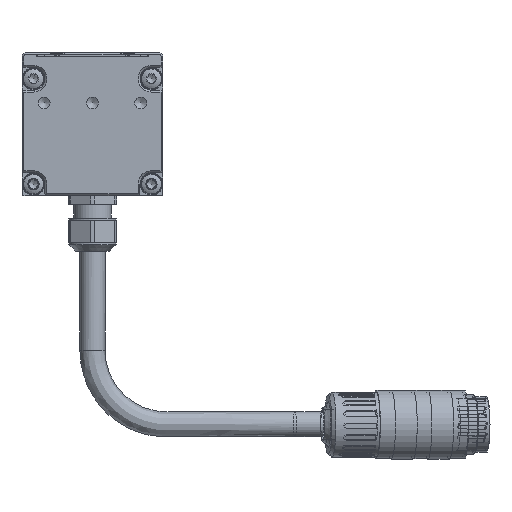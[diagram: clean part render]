
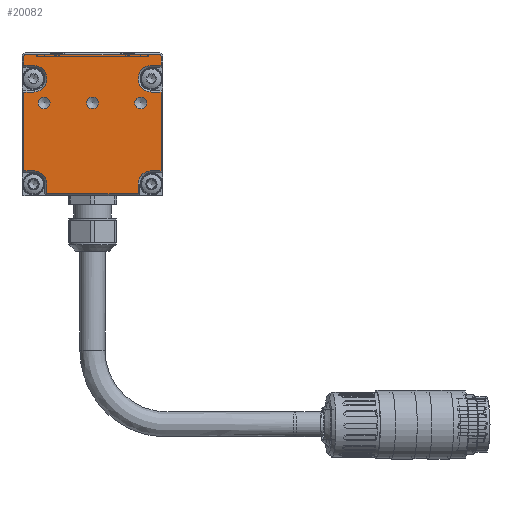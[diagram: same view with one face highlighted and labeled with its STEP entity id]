
A CAD part, left-side view. The second image highlights one B-rep face of the part: STEP entity #20082.
In plain terms, the highlighted planar face has unit normal (-1, 0, 0).
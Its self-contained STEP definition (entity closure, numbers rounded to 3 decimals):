
#880=LINE('',#27913,#1882);
#882=LINE('',#27917,#1884);
#886=LINE('',#27925,#1888);
#889=LINE('',#27931,#1891);
#891=LINE('',#27936,#1893);
#895=LINE('',#27944,#1897);
#897=LINE('',#27948,#1899);
#901=LINE('',#27957,#1903);
#903=LINE('',#27962,#1905);
#906=LINE('',#27970,#1908);
#909=LINE('',#27976,#1911);
#912=LINE('',#27984,#1914);
#916=LINE('',#27992,#1918);
#919=LINE('',#27999,#1921);
#1882=VECTOR('',#23214,1000.);
#1884=VECTOR('',#23218,1000.);
#1888=VECTOR('',#23224,1000.);
#1891=VECTOR('',#23229,1000.);
#1893=VECTOR('',#23235,1000.);
#1897=VECTOR('',#23241,1000.);
#1899=VECTOR('',#23247,1000.);
#1903=VECTOR('',#23257,1000.);
#1905=VECTOR('',#23265,1000.);
#1908=VECTOR('',#23274,1000.);
#1911=VECTOR('',#23283,1000.);
#1914=VECTOR('',#23292,1000.);
#1918=VECTOR('',#23302,1000.);
#1921=VECTOR('',#23311,1000.);
#2682=PLANE('',#21147);
#3923=ORIENTED_EDGE('',*,*,#7674,.T.);
#3924=ORIENTED_EDGE('',*,*,#7675,.T.);
#3925=ORIENTED_EDGE('',*,*,#7676,.T.);
#3926=ORIENTED_EDGE('',*,*,#7648,.T.);
#3927=ORIENTED_EDGE('',*,*,#7645,.T.);
#3928=ORIENTED_EDGE('',*,*,#7639,.T.);
#3929=ORIENTED_EDGE('',*,*,#7656,.T.);
#3930=ORIENTED_EDGE('',*,*,#7654,.T.);
#3931=ORIENTED_EDGE('',*,*,#7652,.T.);
#3932=ORIENTED_EDGE('',*,*,#7630,.T.);
#3933=ORIENTED_EDGE('',*,*,#7663,.T.);
#3934=ORIENTED_EDGE('',*,*,#7661,.T.);
#3935=ORIENTED_EDGE('',*,*,#7659,.T.);
#3936=ORIENTED_EDGE('',*,*,#7628,.T.);
#3937=ORIENTED_EDGE('',*,*,#7673,.F.);
#3938=ORIENTED_EDGE('',*,*,#7643,.T.);
#3939=ORIENTED_EDGE('',*,*,#7672,.F.);
#3940=ORIENTED_EDGE('',*,*,#7637,.T.);
#3941=ORIENTED_EDGE('',*,*,#7671,.T.);
#3942=ORIENTED_EDGE('',*,*,#7669,.T.);
#3943=ORIENTED_EDGE('',*,*,#7667,.T.);
#3944=ORIENTED_EDGE('',*,*,#7634,.T.);
#3945=ORIENTED_EDGE('',*,*,#7650,.T.);
#7628=EDGE_CURVE('',#9566,#9567,#880,.T.);
#7630=EDGE_CURVE('',#9569,#9568,#882,.T.);
#7634=EDGE_CURVE('',#9570,#9571,#886,.T.);
#7637=EDGE_CURVE('',#9572,#9573,#889,.T.);
#7639=EDGE_CURVE('',#9575,#9574,#891,.T.);
#7643=EDGE_CURVE('',#9576,#9577,#895,.T.);
#7645=EDGE_CURVE('',#9578,#9575,#897,.T.);
#7648=EDGE_CURVE('',#9579,#9578,#10697,.T.);
#7650=EDGE_CURVE('',#9571,#9579,#901,.T.);
#7652=EDGE_CURVE('',#9580,#9569,#903,.T.);
#7654=EDGE_CURVE('',#9581,#9580,#10698,.T.);
#7656=EDGE_CURVE('',#9574,#9581,#906,.T.);
#7659=EDGE_CURVE('',#9582,#9566,#909,.T.);
#7661=EDGE_CURVE('',#9583,#9582,#10699,.T.);
#7663=EDGE_CURVE('',#9568,#9583,#912,.T.);
#7667=EDGE_CURVE('',#9584,#9570,#916,.T.);
#7669=EDGE_CURVE('',#9585,#9584,#10700,.T.);
#7671=EDGE_CURVE('',#9573,#9585,#919,.T.);
#7672=EDGE_CURVE('',#9572,#9577,#10701,.T.);
#7673=EDGE_CURVE('',#9576,#9567,#10702,.T.);
#7674=EDGE_CURVE('',#9586,#9586,#10703,.T.);
#7675=EDGE_CURVE('',#9587,#9587,#10704,.T.);
#7676=EDGE_CURVE('',#9588,#9588,#10705,.T.);
#9566=VERTEX_POINT('',#27910);
#9567=VERTEX_POINT('',#27912);
#9568=VERTEX_POINT('',#27916);
#9569=VERTEX_POINT('',#27918);
#9570=VERTEX_POINT('',#27922);
#9571=VERTEX_POINT('',#27924);
#9572=VERTEX_POINT('',#27928);
#9573=VERTEX_POINT('',#27930);
#9574=VERTEX_POINT('',#27935);
#9575=VERTEX_POINT('',#27937);
#9576=VERTEX_POINT('',#27941);
#9577=VERTEX_POINT('',#27943);
#9578=VERTEX_POINT('',#27949);
#9579=VERTEX_POINT('',#27953);
#9580=VERTEX_POINT('',#27963);
#9581=VERTEX_POINT('',#27967);
#9582=VERTEX_POINT('',#27977);
#9583=VERTEX_POINT('',#27981);
#9584=VERTEX_POINT('',#27991);
#9585=VERTEX_POINT('',#27995);
#9586=VERTEX_POINT('',#28007);
#9587=VERTEX_POINT('',#28009);
#9588=VERTEX_POINT('',#28011);
#10697=CIRCLE('',#21122,3.6);
#10698=CIRCLE('',#21128,3.6);
#10699=CIRCLE('',#21134,3.6);
#10700=CIRCLE('',#21140,3.6);
#10701=CIRCLE('',#21144,0.5);
#10702=CIRCLE('',#21146,0.5);
#10703=CIRCLE('',#21148,1.621);
#10704=CIRCLE('',#21149,1.621);
#10705=CIRCLE('',#21150,1.621);
#11388=EDGE_LOOP('',(#3923));
#11389=EDGE_LOOP('',(#3924));
#11390=EDGE_LOOP('',(#3925));
#11391=EDGE_LOOP('',(#3926,#3927,#3928,#3929,#3930,#3931,#3932,#3933,#3934,
#3935,#3936,#3937,#3938,#3939,#3940,#3941,#3942,#3943,#3944,#3945));
#12478=FACE_BOUND('',#11388,.T.);
#12479=FACE_BOUND('',#11389,.T.);
#12480=FACE_BOUND('',#11390,.T.);
#12481=FACE_BOUND('',#11391,.T.);
#20082=ADVANCED_FACE('',(#12478,#12479,#12480,#12481),#2682,.F.);
#21122=AXIS2_PLACEMENT_3D('',#27954,#23252,#23253);
#21128=AXIS2_PLACEMENT_3D('',#27966,#23269,#23270);
#21134=AXIS2_PLACEMENT_3D('',#27980,#23287,#23288);
#21140=AXIS2_PLACEMENT_3D('',#27996,#23306,#23307);
#21144=AXIS2_PLACEMENT_3D('',#28002,#23316,#23317);
#21146=AXIS2_PLACEMENT_3D('',#28004,#23320,#23321);
#21147=AXIS2_PLACEMENT_3D('',#28005,#23322,#23323);
#21148=AXIS2_PLACEMENT_3D('',#28006,#23324,#23325);
#21149=AXIS2_PLACEMENT_3D('',#28008,#23326,#23327);
#21150=AXIS2_PLACEMENT_3D('',#28010,#23328,#23329);
#23214=DIRECTION('',(0.,0.,1.));
#23218=DIRECTION('',(0.,0.,1.));
#23224=DIRECTION('',(0.,0.,-1.));
#23229=DIRECTION('',(0.,0.,-1.));
#23235=DIRECTION('',(0.,-1.,0.));
#23241=DIRECTION('',(0.,1.,0.));
#23247=DIRECTION('',(0.,0.,-1.));
#23252=DIRECTION('',(1.,0.,0.));
#23253=DIRECTION('',(0.,1.,0.));
#23257=DIRECTION('',(0.,-1.,0.));
#23265=DIRECTION('',(0.,-1.,0.));
#23269=DIRECTION('',(1.,0.,0.));
#23270=DIRECTION('',(0.,1.,0.));
#23274=DIRECTION('',(0.,0.,1.));
#23283=DIRECTION('',(0.,-1.,0.));
#23287=DIRECTION('',(1.,0.,0.));
#23288=DIRECTION('',(0.,1.,0.));
#23292=DIRECTION('',(0.,1.,0.));
#23302=DIRECTION('',(0.,1.,0.));
#23306=DIRECTION('',(1.,0.,0.));
#23307=DIRECTION('',(0.,1.,0.));
#23311=DIRECTION('',(0.,-1.,0.));
#23316=DIRECTION('',(1.,0.,0.));
#23317=DIRECTION('',(0.,1.,0.));
#23320=DIRECTION('',(1.,0.,0.));
#23321=DIRECTION('',(0.,1.,0.));
#23322=DIRECTION('',(1.,0.,0.));
#23323=DIRECTION('',(0.,1.,0.));
#23324=DIRECTION('',(1.,0.,0.));
#23325=DIRECTION('',(0.,-1.,0.));
#23326=DIRECTION('',(1.,0.,0.));
#23327=DIRECTION('',(0.,-1.,0.));
#23328=DIRECTION('',(1.,0.,0.));
#23329=DIRECTION('',(0.,-1.,0.));
#27910=CARTESIAN_POINT('',(-1814.998,-18.5,35.119));
#27912=CARTESIAN_POINT('',(-1814.998,-18.5,37.519));
#27913=CARTESIAN_POINT('',(-1814.998,-18.5,0.019));
#27916=CARTESIAN_POINT('',(-1814.998,-18.5,27.919));
#27917=CARTESIAN_POINT('',(-1814.998,-18.5,0.019));
#27918=CARTESIAN_POINT('',(-1814.998,-18.5,6.719));
#27922=CARTESIAN_POINT('',(-1814.998,18.5,27.919));
#27924=CARTESIAN_POINT('',(-1814.998,18.5,6.719));
#27925=CARTESIAN_POINT('',(-1814.998,18.5,0.019));
#27928=CARTESIAN_POINT('',(-1814.998,18.5,37.519));
#27930=CARTESIAN_POINT('',(-1814.998,18.5,35.119));
#27931=CARTESIAN_POINT('',(-1814.998,18.5,0.019));
#27935=CARTESIAN_POINT('',(-1814.998,-12.3,0.519));
#27936=CARTESIAN_POINT('',(-1814.998,-12.3,0.519));
#27937=CARTESIAN_POINT('',(-1814.998,12.3,0.519));
#27941=CARTESIAN_POINT('',(-1814.998,-18.,38.019));
#27943=CARTESIAN_POINT('',(-1814.998,18.,38.019));
#27944=CARTESIAN_POINT('',(-1814.998,-19.,38.019));
#27948=CARTESIAN_POINT('',(-1814.998,12.3,0.019));
#27949=CARTESIAN_POINT('',(-1814.998,12.3,3.119));
#27953=CARTESIAN_POINT('',(-1814.998,15.9,6.719));
#27954=CARTESIAN_POINT('',(-1814.998,15.9,3.119));
#27957=CARTESIAN_POINT('',(-1814.998,-19.,6.719));
#27962=CARTESIAN_POINT('',(-1814.998,-19.,6.719));
#27963=CARTESIAN_POINT('',(-1814.998,-15.9,6.719));
#27966=CARTESIAN_POINT('',(-1814.998,-15.9,3.119));
#27967=CARTESIAN_POINT('',(-1814.998,-12.3,3.119));
#27970=CARTESIAN_POINT('',(-1814.998,-12.3,0.019));
#27976=CARTESIAN_POINT('',(-1814.998,-19.,35.119));
#27977=CARTESIAN_POINT('',(-1814.998,-15.9,35.119));
#27980=CARTESIAN_POINT('',(-1814.998,-15.9,31.519));
#27981=CARTESIAN_POINT('',(-1814.998,-15.9,27.919));
#27984=CARTESIAN_POINT('',(-1814.998,-19.,27.919));
#27991=CARTESIAN_POINT('',(-1814.998,15.9,27.919));
#27992=CARTESIAN_POINT('',(-1814.998,-19.,27.919));
#27995=CARTESIAN_POINT('',(-1814.998,15.9,35.119));
#27996=CARTESIAN_POINT('',(-1814.998,15.9,31.519));
#27999=CARTESIAN_POINT('',(-1814.998,-19.,35.119));
#28002=CARTESIAN_POINT('',(-1814.998,18.,37.519));
#28004=CARTESIAN_POINT('',(-1814.998,-18.,37.519));
#28005=CARTESIAN_POINT('',(-1814.998,-19.,0.019));
#28006=CARTESIAN_POINT('',(-1814.998,13.,25.019));
#28007=CARTESIAN_POINT('',(-1814.998,11.379,25.019));
#28008=CARTESIAN_POINT('',(-1814.998,0.,25.019));
#28009=CARTESIAN_POINT('',(-1814.998,-1.621,25.019));
#28010=CARTESIAN_POINT('',(-1814.998,-13.,25.019));
#28011=CARTESIAN_POINT('',(-1814.998,-14.621,25.019));
